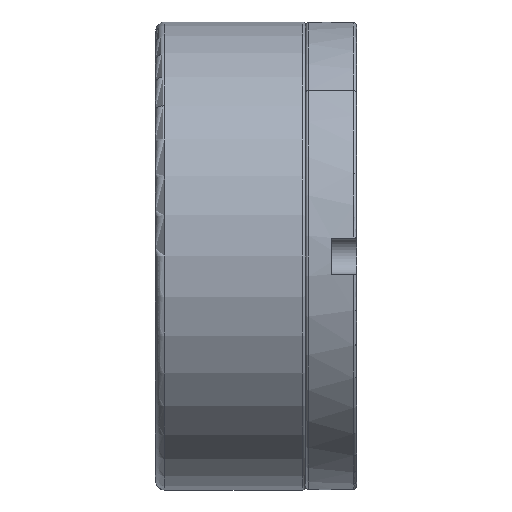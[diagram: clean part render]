
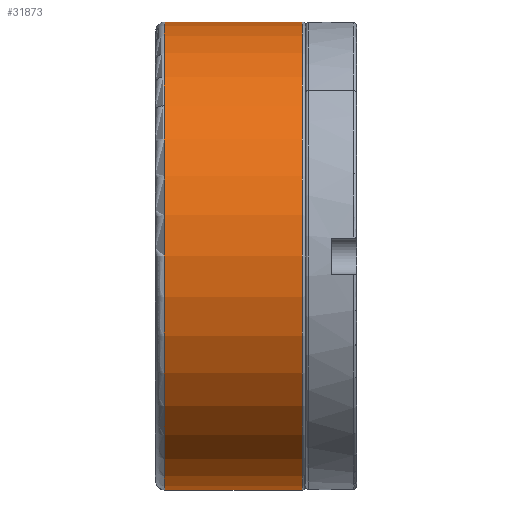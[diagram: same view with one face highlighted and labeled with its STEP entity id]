
A CAD part, front view. The second image highlights one B-rep face of the part: STEP entity #31873.
In plain terms, the highlighted cylindrical face has radius 39 mm (diameter 78 mm), a partial arc.
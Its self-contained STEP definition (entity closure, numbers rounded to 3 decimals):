
#248 = DIRECTION ( 'NONE',  ( 1., 0., 0. ) ) ;
#1380 = EDGE_CURVE ( 'NONE', #10469, #7913, #23625, .T. ) ;
#1921 = FACE_OUTER_BOUND ( 'NONE', #18773, .T. ) ;
#3145 = DIRECTION ( 'NONE',  ( 1., 0., 0. ) ) ;
#3788 = DIRECTION ( 'NONE',  ( 0., 0., -1. ) ) ;
#4217 = AXIS2_PLACEMENT_3D ( 'NONE', #6899, #24710, #9488 ) ;
#4419 = ORIENTED_EDGE ( 'NONE', *, *, #18352, .T. ) ;
#5140 = CARTESIAN_POINT ( 'NONE',  ( -29.769, 16.811, 117. ) ) ;
#6556 = CARTESIAN_POINT ( 'NONE',  ( -53.269, 16.811, 117. ) ) ;
#6899 = CARTESIAN_POINT ( 'NONE',  ( -30.269, 16.811, 78. ) ) ;
#7913 = VERTEX_POINT ( 'NONE', #18673 ) ;
#8718 = CIRCLE ( 'NONE', #21719, 39. ) ;
#8817 = CARTESIAN_POINT ( 'NONE',  ( -29.769, 16.811, 78. ) ) ;
#9488 = DIRECTION ( 'NONE',  ( 0., 0., -1. ) ) ;
#10469 = VERTEX_POINT ( 'NONE', #6556 ) ;
#10665 = CIRCLE ( 'NONE', #4217, 39. ) ;
#11306 = ORIENTED_EDGE ( 'NONE', *, *, #25813, .T. ) ;
#12024 = CARTESIAN_POINT ( 'NONE',  ( -30.269, 16.811, 39. ) ) ;
#13063 = LINE ( 'NONE', #19825, #18253 ) ;
#15533 = CARTESIAN_POINT ( 'NONE',  ( -53.269, 16.811, 78. ) ) ;
#16876 = VECTOR ( 'NONE', #3145, 1000. ) ;
#18101 = DIRECTION ( 'NONE',  ( 0., 0., 1. ) ) ;
#18253 = VECTOR ( 'NONE', #30613, 1000. ) ;
#18352 = EDGE_CURVE ( 'NONE', #18377, #7913, #10665, .T. ) ;
#18377 = VERTEX_POINT ( 'NONE', #12024 ) ;
#18673 = CARTESIAN_POINT ( 'NONE',  ( -30.269, 16.811, 117. ) ) ;
#18773 = EDGE_LOOP ( 'NONE', ( #19443, #26443, #11306, #4419 ) ) ;
#19073 = CYLINDRICAL_SURFACE ( 'NONE', #24643, 39. ) ;
#19321 = CARTESIAN_POINT ( 'NONE',  ( -53.269, 16.811, 39. ) ) ;
#19443 = ORIENTED_EDGE ( 'NONE', *, *, #1380, .F. ) ;
#19825 = CARTESIAN_POINT ( 'NONE',  ( -29.769, 16.811, 39. ) ) ;
#21719 = AXIS2_PLACEMENT_3D ( 'NONE', #15533, #248, #18101 ) ;
#23625 = LINE ( 'NONE', #5140, #16876 ) ;
#23915 = EDGE_CURVE ( 'NONE', #10469, #28080, #8718, .T. ) ;
#23924 = DIRECTION ( 'NONE',  ( 1., 0., 0. ) ) ;
#24643 = AXIS2_PLACEMENT_3D ( 'NONE', #8817, #23924, #3788 ) ;
#24710 = DIRECTION ( 'NONE',  ( -1., 0., 0. ) ) ;
#25813 = EDGE_CURVE ( 'NONE', #28080, #18377, #13063, .T. ) ;
#26443 = ORIENTED_EDGE ( 'NONE', *, *, #23915, .T. ) ;
#28080 = VERTEX_POINT ( 'NONE', #19321 ) ;
#30613 = DIRECTION ( 'NONE',  ( 1., 0., 0. ) ) ;
#31873 = ADVANCED_FACE ( 'NONE', ( #1921 ), #19073, .T. ) ;
